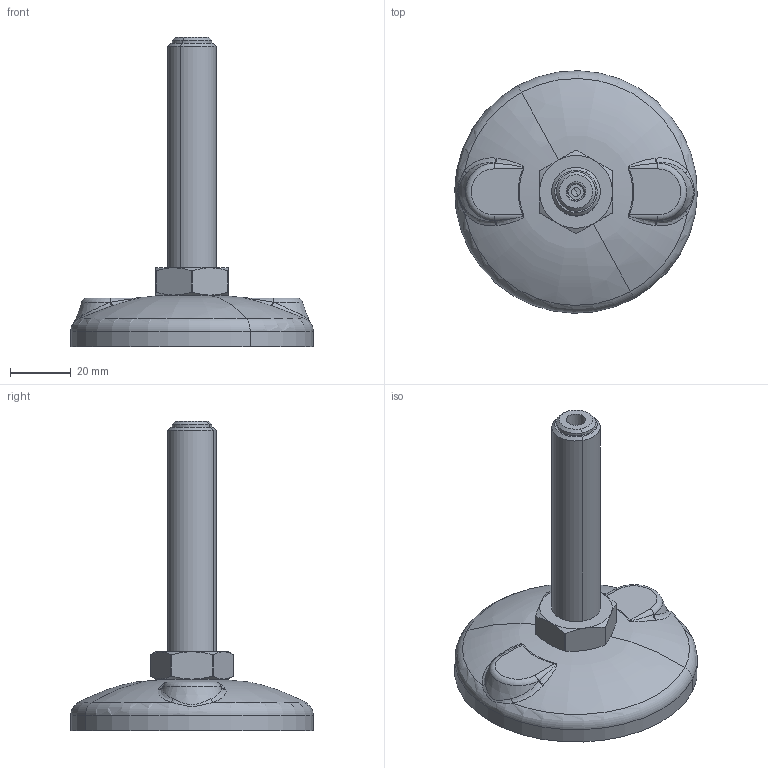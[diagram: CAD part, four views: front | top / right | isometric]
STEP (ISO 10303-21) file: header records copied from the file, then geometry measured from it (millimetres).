
FILE_DESCRIPTION(('CATIA V5 STEP Exchange'),'2;1');
FILE_NAME('C:\Users\dentellad\Desktop\P95410PH_01.stp','2017-02-17T15:47:42+00:00',('none'),('none'),'Version 5-6 Release 2012','CATIA V5 STEP AP203','none');
FILE_SCHEMA(('CONFIG_CONTROL_DESIGN'));
Length unit declared in the file: millimetre
Products named in the file (1): P95410PH_01
Assembly tree (2 placements, depth 2):
  P95410PH_01
    #58
    #22053
Bounding box: 79.98 x 79.98 x 102 mm (x, y, z)
Volume: 47098.7 mm3; surface area: 28340.9 mm2
Topology: 2 solids, 2 shells, 665 faces, 1880 edges, 1232 vertices
Faces by surface type: plane 494, torus 48, cylinder 40, cone 30, revolution 21, sphere 18, bspline 14
Entity records: 23419 total; most frequent: CARTESIAN_POINT 8999, ORIENTED_EDGE 3752, EDGE_CURVE 1876, DIRECTION 1773, VERTEX_POINT 1232, B_SPLINE_CURVE_WITH_KNOTS 1137, AXIS2_PLACEMENT_3D 736, EDGE_LOOP 684
